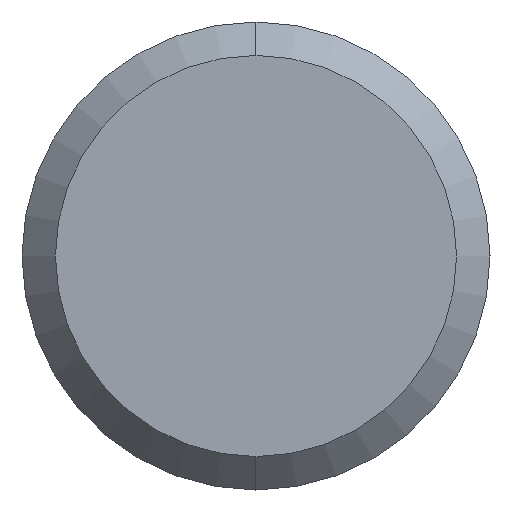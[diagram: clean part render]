
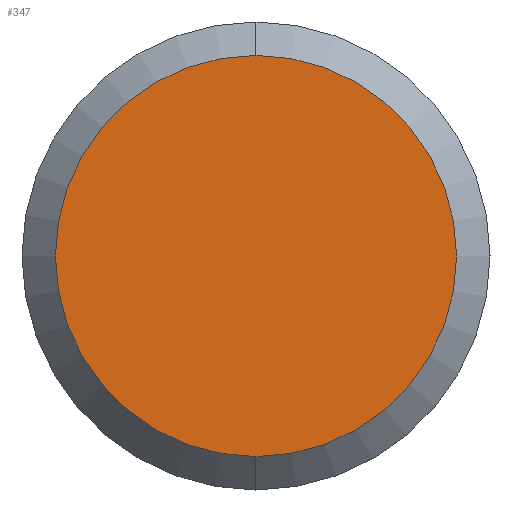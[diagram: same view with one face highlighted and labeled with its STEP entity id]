
A CAD part, left-side view. The second image highlights one B-rep face of the part: STEP entity #347.
In plain terms, the highlighted planar face has unit normal (-1, 0, 0).
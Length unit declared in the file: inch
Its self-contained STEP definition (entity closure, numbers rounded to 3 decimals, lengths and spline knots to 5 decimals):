
#20 = VERTEX_POINT ( 'NONE', #78 ) ;
#30 = CARTESIAN_POINT ( 'NONE',  ( 0., 0.23622, 0. ) ) ;
#45 = DIRECTION ( 'NONE',  ( 1., 0., 0. ) ) ;
#56 = DIRECTION ( 'NONE',  ( 0., 0., -1. ) ) ;
#70 = DIRECTION ( 'NONE',  ( 0., 0., -1. ) ) ;
#78 = CARTESIAN_POINT ( 'NONE',  ( 0., 0., -0.23622 ) ) ;
#93 = CIRCLE ( 'NONE', #368, 0.23622 ) ;
#100 = EDGE_LOOP ( 'NONE', ( #274, #402 ) ) ;
#110 = EDGE_CURVE ( 'NONE', #476, #20, #93, .T. ) ;
#176 = DIRECTION ( 'NONE',  ( -1., 0., 0. ) ) ;
#207 = DIRECTION ( 'NONE',  ( 1., 0., 0. ) ) ;
#211 = AXIS2_PLACEMENT_3D ( 'NONE', #30, #176, #277 ) ;
#217 = PLANE ( 'NONE',  #211 ) ;
#246 = FACE_OUTER_BOUND ( 'NONE', #100, .T. ) ;
#274 = ORIENTED_EDGE ( 'NONE', *, *, #340, .F. ) ;
#277 = DIRECTION ( 'NONE',  ( 0., 0., 1. ) ) ;
#298 = CARTESIAN_POINT ( 'NONE',  ( 0., 0., 0.23622 ) ) ;
#340 = EDGE_CURVE ( 'NONE', #20, #476, #360, .T. ) ;
#347 = ADVANCED_FACE ( 'NONE', ( #246 ), #217, .T. ) ;
#360 = CIRCLE ( 'NONE', #419, 0.23622 ) ;
#368 = AXIS2_PLACEMENT_3D ( 'NONE', #386, #45, #56 ) ;
#386 = CARTESIAN_POINT ( 'NONE',  ( 0., 0., 0. ) ) ;
#402 = ORIENTED_EDGE ( 'NONE', *, *, #110, .F. ) ;
#403 = CARTESIAN_POINT ( 'NONE',  ( 0., 0., 0. ) ) ;
#419 = AXIS2_PLACEMENT_3D ( 'NONE', #403, #207, #70 ) ;
#476 = VERTEX_POINT ( 'NONE', #298 ) ;
